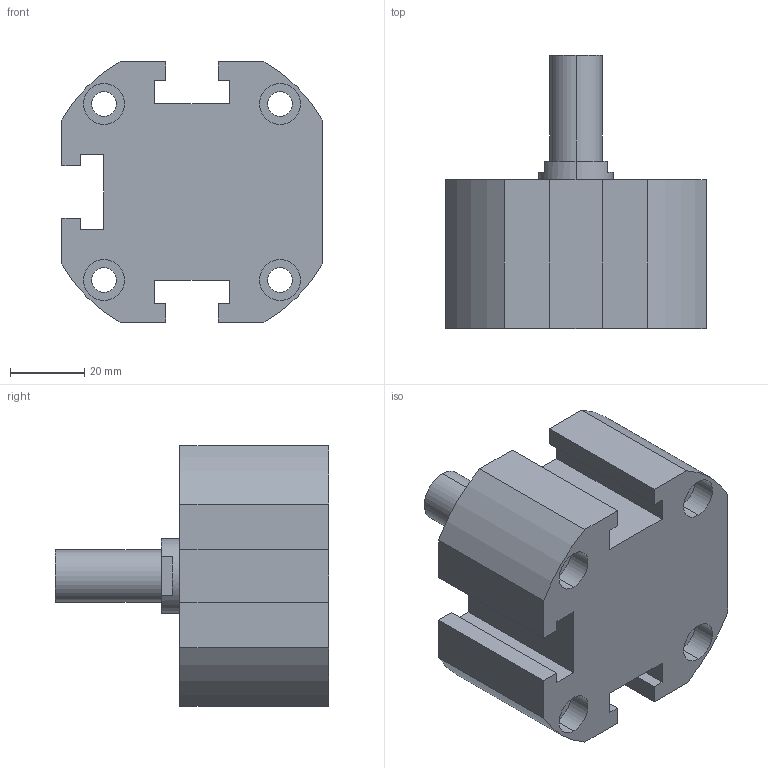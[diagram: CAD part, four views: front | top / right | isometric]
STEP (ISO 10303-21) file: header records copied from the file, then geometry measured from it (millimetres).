
FILE_DESCRIPTION (( 'STEP AP203' ), '1' );
FILE_NAME ('XC#M0-50-10.STEP', '2016-05-23T08:35:32', ( '' ), ( '' ), 'SwSTEP 2.0', 'SolidWorks 2014', '' );
FILE_SCHEMA (( 'CONFIG_CONTROL_DESIGN' ));
Length unit declared in the file: millimetre
Products named in the file (1): XC#M0-50-10
Bounding box: 70 x 73.5 x 70 mm (x, y, z)
Volume: 152094.8 mm3; surface area: 27948.2 mm2
Topology: 1 solids, 1 shells, 106 faces, 263 edges, 173 vertices
Faces by surface type: cylinder 52, plane 50, cone 4
Entity records: 3266 total; most frequent: DIRECTION 587, CARTESIAN_POINT 541, ORIENTED_EDGE 522, EDGE_CURVE 261, AXIS2_PLACEMENT_3D 219, VERTEX_POINT 173, VECTOR 149, LINE 149
